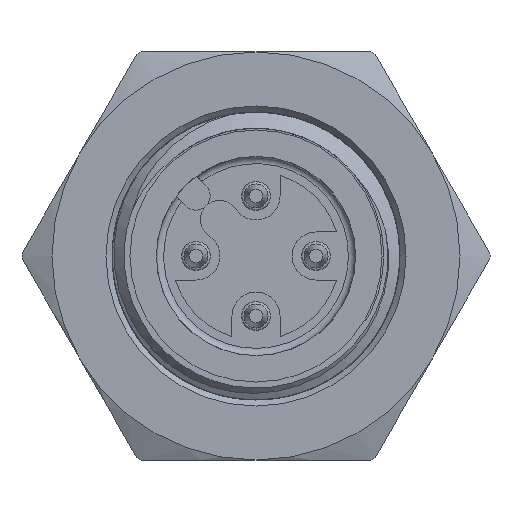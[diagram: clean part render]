
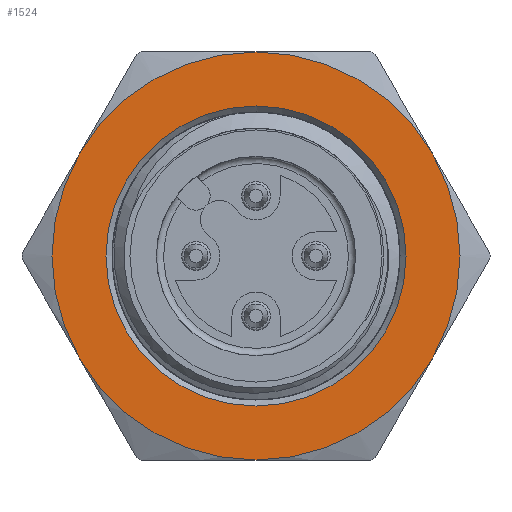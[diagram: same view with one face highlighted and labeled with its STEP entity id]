
A CAD part, front view. The second image highlights one B-rep face of the part: STEP entity #1524.
In plain terms, the highlighted planar face has unit normal (0, -1, 0).
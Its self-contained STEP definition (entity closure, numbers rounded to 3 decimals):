
#68 = VERTEX_POINT ( 'NONE', #7645 ) ;
#482 = DIRECTION ( 'NONE',  ( -1., 0., 0. ) ) ;
#639 = FACE_OUTER_BOUND ( 'NONE', #9709, .T. ) ;
#710 = CARTESIAN_POINT ( 'NONE',  ( 0., 22.439, 0. ) ) ;
#758 = DIRECTION ( 'NONE',  ( 0., 1., 0. ) ) ;
#773 = AXIS2_PLACEMENT_3D ( 'NONE', #1165, #6285, #1298 ) ;
#1165 = CARTESIAN_POINT ( 'NONE',  ( 0., 22.439, 0. ) ) ;
#1273 = EDGE_CURVE ( 'NONE', #3336, #1946, #3986, .T. ) ;
#1298 = DIRECTION ( 'NONE',  ( 0., 0., -1. ) ) ;
#1524 = ADVANCED_FACE ( 'NONE', ( #639, #2803 ), #13046, .T. ) ;
#1640 = AXIS2_PLACEMENT_3D ( 'NONE', #710, #4833, #7042 ) ;
#1660 = CIRCLE ( 'NONE', #773, 8.5 ) ;
#1739 = EDGE_CURVE ( 'NONE', #7539, #11625, #11443, .T. ) ;
#1870 = CARTESIAN_POINT ( 'NONE',  ( 0., 22.439, -8.5 ) ) ;
#1946 = VERTEX_POINT ( 'NONE', #12337 ) ;
#2720 = AXIS2_PLACEMENT_3D ( 'NONE', #4610, #9697, #482 ) ;
#2803 = FACE_BOUND ( 'NONE', #9009, .T. ) ;
#2896 = ORIENTED_EDGE ( 'NONE', *, *, #1273, .F. ) ;
#2913 = AXIS2_PLACEMENT_3D ( 'NONE', #13312, #12285, #7291 ) ;
#2945 = CARTESIAN_POINT ( 'NONE',  ( 0., 22.439, 8.5 ) ) ;
#3336 = VERTEX_POINT ( 'NONE', #1870 ) ;
#3684 = DIRECTION ( 'NONE',  ( 0., 1., 0. ) ) ;
#3986 = CIRCLE ( 'NONE', #4405, 8.5 ) ;
#4119 = ORIENTED_EDGE ( 'NONE', *, *, #8172, .F. ) ;
#4405 = AXIS2_PLACEMENT_3D ( 'NONE', #7716, #6714, #7512 ) ;
#4610 = CARTESIAN_POINT ( 'NONE',  ( 0., 22.439, 0. ) ) ;
#4826 = CARTESIAN_POINT ( 'NONE',  ( 0., 22.439, 0. ) ) ;
#4833 = DIRECTION ( 'NONE',  ( 0., 1., 0. ) ) ;
#4941 = EDGE_CURVE ( 'NONE', #68, #7073, #7836, .T. ) ;
#6285 = DIRECTION ( 'NONE',  ( 0., 1., 0. ) ) ;
#6714 = DIRECTION ( 'NONE',  ( 0., 1., 0. ) ) ;
#6772 = DIRECTION ( 'NONE',  ( 0., 0., -1. ) ) ;
#7003 = AXIS2_PLACEMENT_3D ( 'NONE', #12151, #8983, #10048 ) ;
#7012 = CIRCLE ( 'NONE', #8493, 8.5 ) ;
#7042 = DIRECTION ( 'NONE',  ( 0., 0., -1. ) ) ;
#7073 = VERTEX_POINT ( 'NONE', #11719 ) ;
#7291 = DIRECTION ( 'NONE',  ( 0., 0., -1. ) ) ;
#7366 = AXIS2_PLACEMENT_3D ( 'NONE', #4826, #3684, #7971 ) ;
#7512 = DIRECTION ( 'NONE',  ( 0., 0., -1. ) ) ;
#7539 = VERTEX_POINT ( 'NONE', #7915 ) ;
#7645 = CARTESIAN_POINT ( 'NONE',  ( 7.361, 22.439, 4.25 ) ) ;
#7716 = CARTESIAN_POINT ( 'NONE',  ( 0., 22.439, 0. ) ) ;
#7836 = CIRCLE ( 'NONE', #2913, 8.5 ) ;
#7855 = CARTESIAN_POINT ( 'NONE',  ( -6.25, 22.439, 0. ) ) ;
#7915 = CARTESIAN_POINT ( 'NONE',  ( -7.361, 22.439, 4.25 ) ) ;
#7971 = DIRECTION ( 'NONE',  ( 0., 0., -1. ) ) ;
#8080 = CIRCLE ( 'NONE', #1640, 8.5 ) ;
#8172 = EDGE_CURVE ( 'NONE', #11625, #68, #8080, .T. ) ;
#8493 = AXIS2_PLACEMENT_3D ( 'NONE', #13166, #758, #6772 ) ;
#8726 = EDGE_CURVE ( 'NONE', #1946, #7539, #7012, .T. ) ;
#8983 = DIRECTION ( 'NONE',  ( 0., -1., 0. ) ) ;
#9009 = EDGE_LOOP ( 'NONE', ( #9069 ) ) ;
#9069 = ORIENTED_EDGE ( 'NONE', *, *, #9520, .F. ) ;
#9394 = ORIENTED_EDGE ( 'NONE', *, *, #10522, .F. ) ;
#9520 = EDGE_CURVE ( 'NONE', #11970, #11970, #10224, .T. ) ;
#9697 = DIRECTION ( 'NONE',  ( 0., -1., 0. ) ) ;
#9709 = EDGE_LOOP ( 'NONE', ( #4119, #12030, #10954, #2896, #9394, #10234 ) ) ;
#10048 = DIRECTION ( 'NONE',  ( -1., 0., 0. ) ) ;
#10224 = CIRCLE ( 'NONE', #2720, 6.25 ) ;
#10234 = ORIENTED_EDGE ( 'NONE', *, *, #4941, .F. ) ;
#10522 = EDGE_CURVE ( 'NONE', #7073, #3336, #1660, .T. ) ;
#10954 = ORIENTED_EDGE ( 'NONE', *, *, #8726, .F. ) ;
#11443 = CIRCLE ( 'NONE', #7366, 8.5 ) ;
#11625 = VERTEX_POINT ( 'NONE', #2945 ) ;
#11719 = CARTESIAN_POINT ( 'NONE',  ( 7.361, 22.439, -4.25 ) ) ;
#11970 = VERTEX_POINT ( 'NONE', #7855 ) ;
#12030 = ORIENTED_EDGE ( 'NONE', *, *, #1739, .F. ) ;
#12151 = CARTESIAN_POINT ( 'NONE',  ( 0., 22.439, 7. ) ) ;
#12285 = DIRECTION ( 'NONE',  ( 0., 1., 0. ) ) ;
#12337 = CARTESIAN_POINT ( 'NONE',  ( -7.361, 22.439, -4.25 ) ) ;
#13046 = PLANE ( 'NONE',  #7003 ) ;
#13166 = CARTESIAN_POINT ( 'NONE',  ( 0., 22.439, 0. ) ) ;
#13312 = CARTESIAN_POINT ( 'NONE',  ( 0., 22.439, 0. ) ) ;
